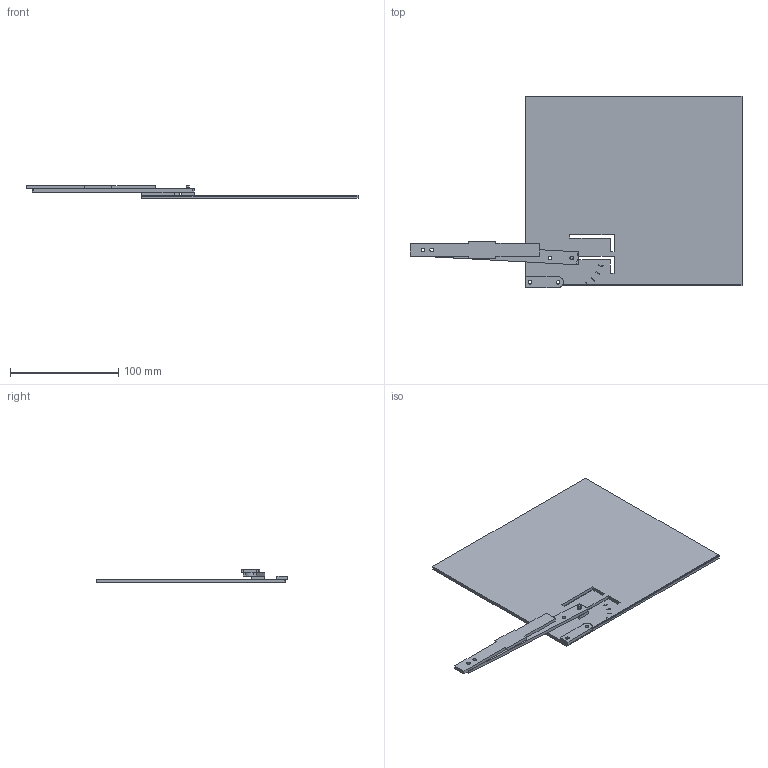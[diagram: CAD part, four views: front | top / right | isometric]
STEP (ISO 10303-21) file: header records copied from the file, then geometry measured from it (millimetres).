
FILE_DESCRIPTION(('Open CASCADE Model'),'2;1');
FILE_NAME('F08_asm_folded','2026-11-15T22:32:30',('Author'),( 'Open CASCADE'),'Open CASCADE STEP processor 8.0','build123d', 'Unknown');
FILE_SCHEMA(('AUTOMOTIVE_DESIGN { 1 0 10303 214 1 1 1 1 }'));
Length unit declared in the file: millimetre
Products named in the file (6): F08_asm_folded; CARD; SLIDER; COL; FOOT; ARM
Assembly tree (5 placements, depth 2):
  F08_asm_folded
    CARD
    SLIDER
    COL
    FOOT
    ARM
Bounding box: 307 x 177 x 12 mm (x, y, z)
Volume: 114897.6 mm3; surface area: 82618.9 mm2
Topology: 5 solids, 5 shells, 106 faces, 267 edges, 178 vertices
Faces by surface type: plane 87, cylinder 19
Full cylindrical faces by diameter (mm): 2.5 x1, 3 x3, 3.3 x6, 3.4 x6
Entity records: 6650 total; most frequent: CARTESIAN_POINT 1218, DIRECTION 941, LINE 604, VECTOR 604, ORIENTED_EDGE 534, PCURVE 534, DEFINITIONAL_REPRESENTATION 534, EDGE_CURVE 267
